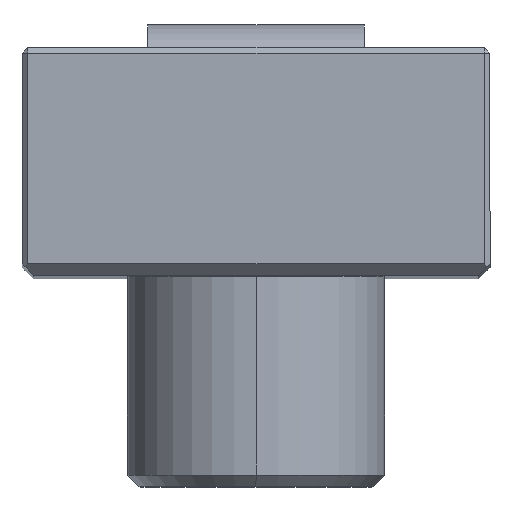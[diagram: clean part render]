
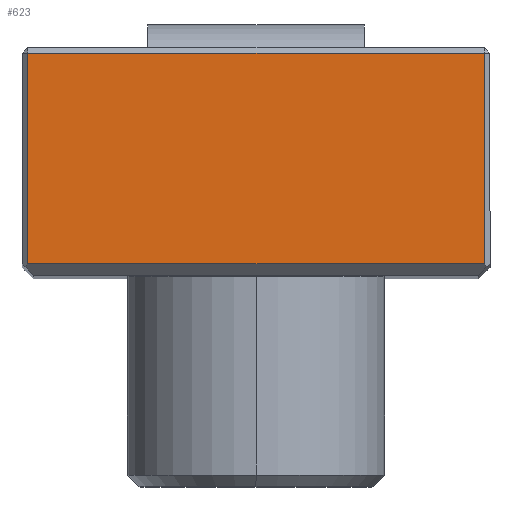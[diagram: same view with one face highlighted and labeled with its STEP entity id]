
A CAD part, top view. The second image highlights one B-rep face of the part: STEP entity #623.
In plain terms, the highlighted planar face has unit normal (0, 0, 1).
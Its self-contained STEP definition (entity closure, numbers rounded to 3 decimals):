
#586 = EDGE_CURVE ( 'NONE', #744, #779, #1243, .T. ) ;
#587 = ORIENTED_EDGE ( 'NONE', *, *, #588, .T. ) ;
#588 = EDGE_CURVE ( 'NONE', #778, #591, #1304, .T. ) ;
#591 = VERTEX_POINT ( 'NONE', #1300 ) ;
#614 = EDGE_CURVE ( 'NONE', #779, #778, #1327, .T. ) ;
#622 = ORIENTED_EDGE ( 'NONE', *, *, #626, .T. ) ;
#623 = ADVANCED_FACE ( 'NONE', ( #1312 ), #1307, .F. ) ;
#626 = EDGE_CURVE ( 'NONE', #591, #744, #1368, .T. ) ;
#707 = EDGE_LOOP ( 'NONE', ( #746, #795, #587, #622 ) ) ;
#744 = VERTEX_POINT ( 'NONE', #1544 ) ;
#746 = ORIENTED_EDGE ( 'NONE', *, *, #586, .T. ) ;
#778 = VERTEX_POINT ( 'NONE', #1568 ) ;
#779 = VERTEX_POINT ( 'NONE', #1569 ) ;
#795 = ORIENTED_EDGE ( 'NONE', *, *, #614, .T. ) ;
#1243 = LINE ( 'NONE', #1249, #1306 ) ;
#1249 = CARTESIAN_POINT ( 'NONE',  ( -19.5, 0., 80. ) ) ;
#1300 = CARTESIAN_POINT ( 'NONE',  ( 19.5, 19., 80. ) ) ;
#1301 = DIRECTION ( 'NONE',  ( 0., 1., 0. ) ) ;
#1302 = VECTOR ( 'NONE', #1301, 1000. ) ;
#1303 = CARTESIAN_POINT ( 'NONE',  ( 19.5, 19.5, 80. ) ) ;
#1304 = LINE ( 'NONE', #1303, #1302 ) ;
#1305 = DIRECTION ( 'NONE',  ( 0., -1., 0. ) ) ;
#1306 = VECTOR ( 'NONE', #1305, 1000. ) ;
#1307 = PLANE ( 'NONE',  #1372 ) ;
#1312 = FACE_OUTER_BOUND ( 'NONE', #707, .T. ) ;
#1324 = DIRECTION ( 'NONE',  ( 1., 0., 0. ) ) ;
#1325 = VECTOR ( 'NONE', #1324, 1000. ) ;
#1326 = CARTESIAN_POINT ( 'NONE',  ( 19.5, 1., 80. ) ) ;
#1327 = LINE ( 'NONE', #1326, #1325 ) ;
#1365 = DIRECTION ( 'NONE',  ( -1., 0., 0. ) ) ;
#1366 = VECTOR ( 'NONE', #1365, 1000. ) ;
#1367 = CARTESIAN_POINT ( 'NONE',  ( -20., 19., 80. ) ) ;
#1368 = LINE ( 'NONE', #1367, #1366 ) ;
#1369 = DIRECTION ( 'NONE',  ( -1., 0., 0. ) ) ;
#1370 = DIRECTION ( 'NONE',  ( 0., 0., -1. ) ) ;
#1371 = CARTESIAN_POINT ( 'NONE',  ( 20., 19.5, 80. ) ) ;
#1372 = AXIS2_PLACEMENT_3D ( 'NONE', #1371, #1370, #1369 ) ;
#1544 = CARTESIAN_POINT ( 'NONE',  ( -19.5, 19., 80. ) ) ;
#1568 = CARTESIAN_POINT ( 'NONE',  ( 19.5, 1., 80. ) ) ;
#1569 = CARTESIAN_POINT ( 'NONE',  ( -19.5, 1., 80. ) ) ;
